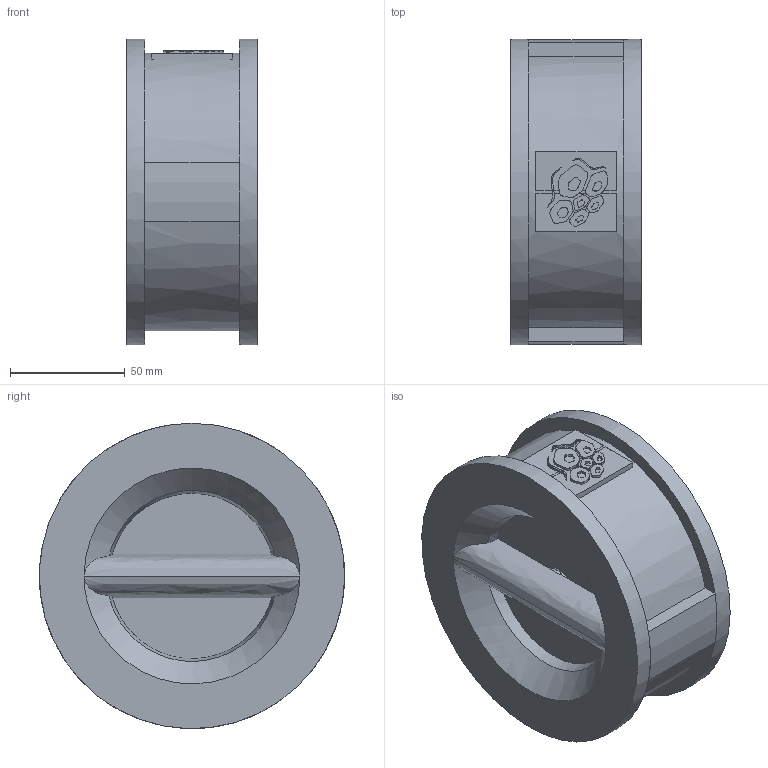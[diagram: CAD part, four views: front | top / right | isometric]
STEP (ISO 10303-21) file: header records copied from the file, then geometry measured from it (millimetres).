
FILE_DESCRIPTION(('STEP AP203'), '1');
FILE_NAME('3D_400_080_16', '', ('UNSPECIFIED'), ('UNSPECIFIED'), 'C3D Converter', 'C3D Toolkit', '');
FILE_SCHEMA(('CONFIG_CONTROL_DESIGN'));
Length unit declared in the file: millimetre
Bounding box: 57 x 133 x 133 mm (x, y, z)
Volume: 395711.1 mm3; surface area: 82310 mm2
Topology: 1 solids, 1 shells, 878 faces, 2575 edges, 1713 vertices
Faces by surface type: plane 849, bspline 20, cylinder 9
Full cylindrical faces by diameter (mm): 12.348 x1, 17.6 x1, 18.348 x1, 83 x1, 85 x1, 91 x1, 93 x1
Entity records: 40889 total; most frequent: CARTESIAN_POINT 10783, ORIENTED_EDGE 5114, DIRECTION 4209, EDGE_CURVE 2557, LINE 2459, VECTOR 2459, VERTEX_POINT 1713, EDGE_LOOP 912
